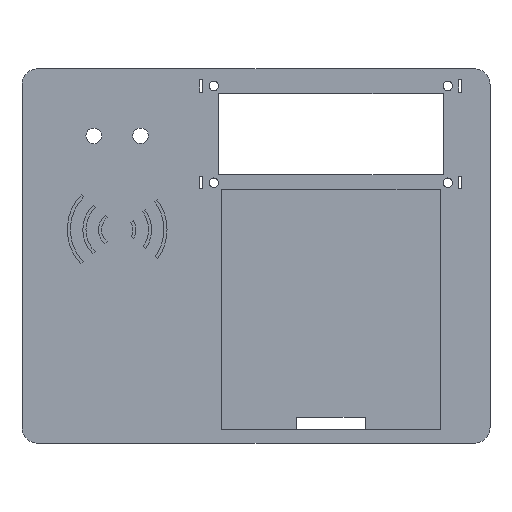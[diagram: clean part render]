
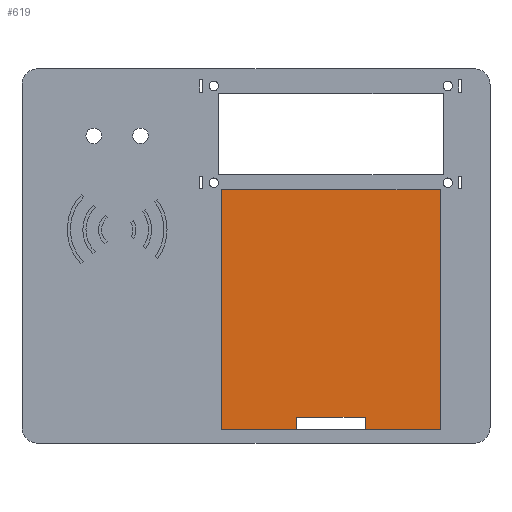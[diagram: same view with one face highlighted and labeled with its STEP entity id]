
A CAD part, top view. The second image highlights one B-rep face of the part: STEP entity #619.
In plain terms, the highlighted planar face has unit normal (0, 0, 1).
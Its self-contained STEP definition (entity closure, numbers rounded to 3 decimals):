
#19 = CARTESIAN_POINT ( 'NONE',  ( 13., -51.701, -0.6 ) ) ;
#124 = CARTESIAN_POINT ( 'NONE',  ( 35., -55.701, -0.6 ) ) ;
#125 = CARTESIAN_POINT ( 'NONE',  ( -11., -55.701, -0.6 ) ) ;
#169 = LINE ( 'NONE', #441, #2780 ) ;
#235 = ORIENTED_EDGE ( 'NONE', *, *, #3729, .F. ) ;
#360 = CARTESIAN_POINT ( 'NONE',  ( 13., -51.701, -0.6 ) ) ;
#389 = CARTESIAN_POINT ( 'NONE',  ( 35., -51.701, -0.6 ) ) ;
#410 = AXIS2_PLACEMENT_3D ( 'NONE', #2905, #2265, #1120 ) ;
#412 = VERTEX_POINT ( 'NONE', #3461 ) ;
#433 = LINE ( 'NONE', #125, #3182 ) ;
#441 = CARTESIAN_POINT ( 'NONE',  ( 35., -51.701, -0.6 ) ) ;
#461 = EDGE_CURVE ( 'NONE', #3031, #1698, #1612, .T. ) ;
#481 = EDGE_CURVE ( 'NONE', #3120, #2385, #433, .T. ) ;
#612 = DIRECTION ( 'NONE',  ( 1., 0., 0. ) ) ;
#619 = ADVANCED_FACE ( 'NONE', ( #766 ), #1706, .F. ) ;
#748 = DIRECTION ( 'NONE',  ( 0., -1., 0. ) ) ;
#766 = FACE_OUTER_BOUND ( 'NONE', #1058, .T. ) ;
#901 = EDGE_CURVE ( 'NONE', #3173, #412, #1922, .T. ) ;
#910 = DIRECTION ( 'NONE',  ( 0., -1., 0. ) ) ;
#979 = VECTOR ( 'NONE', #3126, 1000. ) ;
#1058 = EDGE_LOOP ( 'NONE', ( #235, #2169, #3856, #2383, #3363, #1563, #2485, #1893 ) ) ;
#1120 = DIRECTION ( 'NONE',  ( -1., 0., 0. ) ) ;
#1312 = CARTESIAN_POINT ( 'NONE',  ( -11., 21.299, -0.6 ) ) ;
#1415 = VECTOR ( 'NONE', #2543, 1000. ) ;
#1463 = VECTOR ( 'NONE', #2533, 1000. ) ;
#1530 = VERTEX_POINT ( 'NONE', #2209 ) ;
#1563 = ORIENTED_EDGE ( 'NONE', *, *, #1866, .T. ) ;
#1612 = LINE ( 'NONE', #360, #979 ) ;
#1681 = VECTOR ( 'NONE', #3701, 1000. ) ;
#1698 = VERTEX_POINT ( 'NONE', #3176 ) ;
#1700 = EDGE_CURVE ( 'NONE', #412, #3643, #2228, .T. ) ;
#1703 = CARTESIAN_POINT ( 'NONE',  ( 59., -55.701, -0.6 ) ) ;
#1706 = PLANE ( 'NONE',  #410 ) ;
#1727 = LINE ( 'NONE', #19, #3698 ) ;
#1866 = EDGE_CURVE ( 'NONE', #2385, #1530, #3301, .T. ) ;
#1893 = ORIENTED_EDGE ( 'NONE', *, *, #461, .F. ) ;
#1922 = LINE ( 'NONE', #2168, #1681 ) ;
#1986 = VECTOR ( 'NONE', #612, 1000. ) ;
#2168 = CARTESIAN_POINT ( 'NONE',  ( -11., -55.701, -0.6 ) ) ;
#2169 = ORIENTED_EDGE ( 'NONE', *, *, #901, .T. ) ;
#2209 = CARTESIAN_POINT ( 'NONE',  ( 13., -55.701, -0.6 ) ) ;
#2228 = LINE ( 'NONE', #1703, #1415 ) ;
#2264 = EDGE_CURVE ( 'NONE', #3643, #3120, #3078, .T. ) ;
#2265 = DIRECTION ( 'NONE',  ( 0., 0., -1. ) ) ;
#2291 = CARTESIAN_POINT ( 'NONE',  ( -11., -55.701, -0.6 ) ) ;
#2383 = ORIENTED_EDGE ( 'NONE', *, *, #2264, .T. ) ;
#2385 = VERTEX_POINT ( 'NONE', #2291 ) ;
#2485 = ORIENTED_EDGE ( 'NONE', *, *, #3438, .F. ) ;
#2533 = DIRECTION ( 'NONE',  ( -1., 0., 0. ) ) ;
#2543 = DIRECTION ( 'NONE',  ( 0., 1., 0. ) ) ;
#2780 = VECTOR ( 'NONE', #3213, 1000. ) ;
#2905 = CARTESIAN_POINT ( 'NONE',  ( 0., 0., -0.6 ) ) ;
#3031 = VERTEX_POINT ( 'NONE', #389 ) ;
#3078 = LINE ( 'NONE', #3745, #1463 ) ;
#3116 = CARTESIAN_POINT ( 'NONE',  ( 59., 21.299, -0.6 ) ) ;
#3120 = VERTEX_POINT ( 'NONE', #1312 ) ;
#3126 = DIRECTION ( 'NONE',  ( -1., 0., 0. ) ) ;
#3173 = VERTEX_POINT ( 'NONE', #124 ) ;
#3176 = CARTESIAN_POINT ( 'NONE',  ( 13., -51.701, -0.6 ) ) ;
#3182 = VECTOR ( 'NONE', #748, 1000. ) ;
#3213 = DIRECTION ( 'NONE',  ( 0., 1., 0. ) ) ;
#3301 = LINE ( 'NONE', #3558, #1986 ) ;
#3363 = ORIENTED_EDGE ( 'NONE', *, *, #481, .T. ) ;
#3438 = EDGE_CURVE ( 'NONE', #1698, #1530, #1727, .T. ) ;
#3461 = CARTESIAN_POINT ( 'NONE',  ( 59., -55.701, -0.6 ) ) ;
#3558 = CARTESIAN_POINT ( 'NONE',  ( -11., -55.701, -0.6 ) ) ;
#3643 = VERTEX_POINT ( 'NONE', #3116 ) ;
#3698 = VECTOR ( 'NONE', #910, 1000. ) ;
#3701 = DIRECTION ( 'NONE',  ( 1., 0., 0. ) ) ;
#3729 = EDGE_CURVE ( 'NONE', #3173, #3031, #169, .T. ) ;
#3745 = CARTESIAN_POINT ( 'NONE',  ( -11., 21.299, -0.6 ) ) ;
#3856 = ORIENTED_EDGE ( 'NONE', *, *, #1700, .T. ) ;
